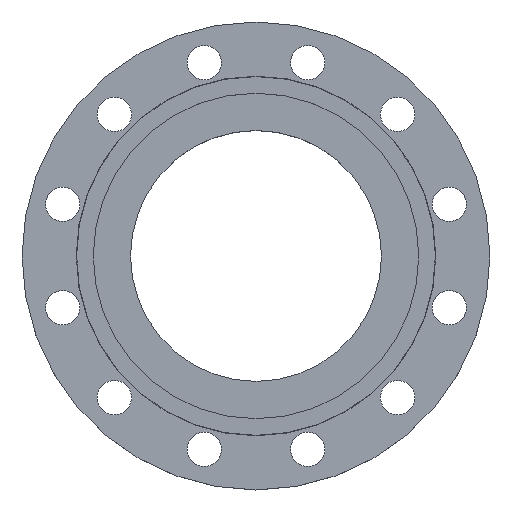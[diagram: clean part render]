
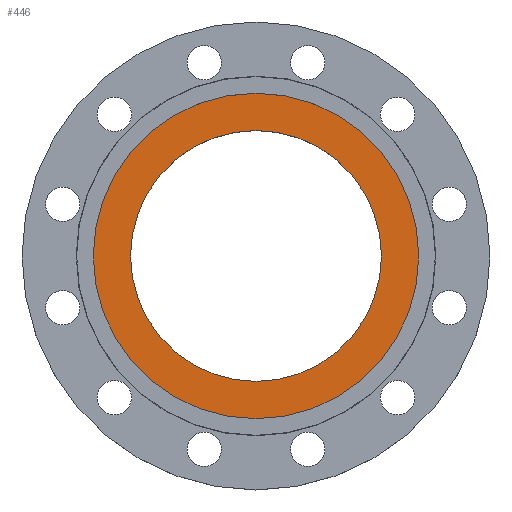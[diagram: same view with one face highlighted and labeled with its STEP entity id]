
A CAD part, top view. The second image highlights one B-rep face of the part: STEP entity #446.
In plain terms, the highlighted planar face has unit normal (0, 0, 1).
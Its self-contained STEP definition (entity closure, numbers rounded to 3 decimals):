
#76 = CARTESIAN_POINT ( 'NONE',  ( 120.67, 0., -4.5 ) ) ;
#93 = CARTESIAN_POINT ( 'NONE',  ( -156.5, 0., -4.5 ) ) ;
#114 = CARTESIAN_POINT ( 'NONE',  ( 156.5, 0., -4.5 ) ) ;
#185 = CARTESIAN_POINT ( 'NONE',  ( -120.67, 0., -4.5 ) ) ;
#207 = AXIS2_PLACEMENT_3D ( 'NONE', #765, #764, #763 ) ;
#239 = EDGE_CURVE ( 'NONE', #1200, #1346, #718, .T. ) ;
#256 = DIRECTION ( 'NONE',  ( -1., 0., 0. ) ) ;
#258 = DIRECTION ( 'NONE',  ( 0., 0., -1. ) ) ;
#259 = CARTESIAN_POINT ( 'NONE',  ( 0., 0., -4.5 ) ) ;
#298 = AXIS2_PLACEMENT_3D ( 'NONE', #259, #258, #256 ) ;
#327 = EDGE_CURVE ( 'NONE', #1346, #1200, #697, .T. ) ;
#350 = CIRCLE ( 'NONE', #1282, 156.5 ) ;
#446 = ADVANCED_FACE ( 'NONE', ( #637, #636 ), #635, .T. ) ;
#477 = DIRECTION ( 'NONE',  ( -1., 0., 0. ) ) ;
#478 = DIRECTION ( 'NONE',  ( 0., 0., -1. ) ) ;
#479 = CARTESIAN_POINT ( 'NONE',  ( 0., 0., -4.5 ) ) ;
#551 = AXIS2_PLACEMENT_3D ( 'NONE', #634, #631, #630 ) ;
#630 = DIRECTION ( 'NONE',  ( 1., 0., 0. ) ) ;
#631 = DIRECTION ( 'NONE',  ( 0., 0., 1. ) ) ;
#634 = CARTESIAN_POINT ( 'NONE',  ( 156.5, 0., -4.5 ) ) ;
#635 = PLANE ( 'NONE',  #551 ) ;
#636 = FACE_OUTER_BOUND ( 'NONE', #1375, .T. ) ;
#637 = FACE_BOUND ( 'NONE', #1036, .T. ) ;
#697 = CIRCLE ( 'NONE', #794, 120.67 ) ;
#718 = CIRCLE ( 'NONE', #207, 120.67 ) ;
#738 = DIRECTION ( 'NONE',  ( 1., 0., 0. ) ) ;
#739 = DIRECTION ( 'NONE',  ( 0., 0., 1. ) ) ;
#740 = CARTESIAN_POINT ( 'NONE',  ( 0., 0., -4.5 ) ) ;
#763 = DIRECTION ( 'NONE',  ( 1., 0., 0. ) ) ;
#764 = DIRECTION ( 'NONE',  ( 0., 0., 1. ) ) ;
#765 = CARTESIAN_POINT ( 'NONE',  ( 0., 0., -4.5 ) ) ;
#794 = AXIS2_PLACEMENT_3D ( 'NONE', #740, #739, #738 ) ;
#847 = EDGE_CURVE ( 'NONE', #1319, #1294, #350, .T. ) ;
#1036 = EDGE_LOOP ( 'NONE', ( #1090, #1093 ) ) ;
#1090 = ORIENTED_EDGE ( 'NONE', *, *, #327, .F. ) ;
#1093 = ORIENTED_EDGE ( 'NONE', *, *, #239, .F. ) ;
#1094 = ORIENTED_EDGE ( 'NONE', *, *, #847, .F. ) ;
#1096 = ORIENTED_EDGE ( 'NONE', *, *, #1131, .F. ) ;
#1131 = EDGE_CURVE ( 'NONE', #1294, #1319, #1216, .T. ) ;
#1200 = VERTEX_POINT ( 'NONE', #185 ) ;
#1216 = CIRCLE ( 'NONE', #298, 156.5 ) ;
#1282 = AXIS2_PLACEMENT_3D ( 'NONE', #479, #478, #477 ) ;
#1294 = VERTEX_POINT ( 'NONE', #114 ) ;
#1319 = VERTEX_POINT ( 'NONE', #93 ) ;
#1346 = VERTEX_POINT ( 'NONE', #76 ) ;
#1375 = EDGE_LOOP ( 'NONE', ( #1094, #1096 ) ) ;
